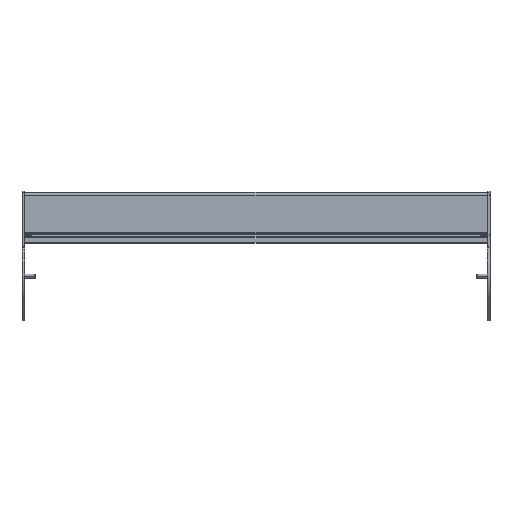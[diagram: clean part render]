
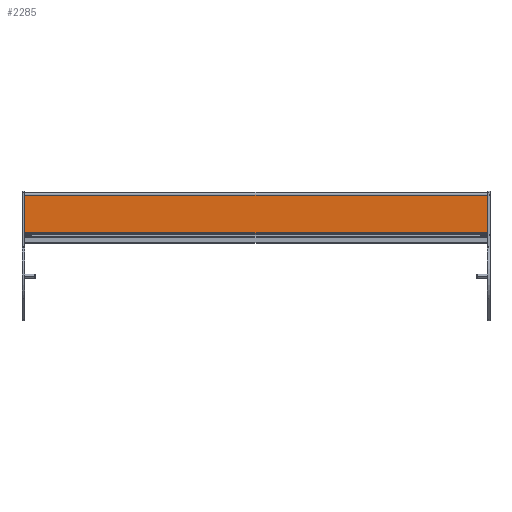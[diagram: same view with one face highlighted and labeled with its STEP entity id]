
A CAD part, top view. The second image highlights one B-rep face of the part: STEP entity #2285.
In plain terms, the highlighted planar face has unit normal (0, 0, 1) as drawn and (1, 0, 0) by its records, which use the part's own axes.
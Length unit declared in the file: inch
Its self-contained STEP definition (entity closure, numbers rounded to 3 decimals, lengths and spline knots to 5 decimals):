
#197=DIRECTION('',(0.,1.,0.));
#198=VECTOR('',#197,1.81445);
#199=CARTESIAN_POINT('',(0.683,-0.84545,-11.118));
#200=LINE('',#199,#198);
#303=DIRECTION('',(0.,1.,0.));
#304=VECTOR('',#303,1.81445);
#305=CARTESIAN_POINT('',(0.683,-0.84545,11.118));
#306=LINE('',#305,#304);
#646=DIRECTION('',(0.,0.,1.));
#647=VECTOR('',#646,22.236);
#648=CARTESIAN_POINT('',(0.683,0.969,-11.118));
#649=LINE('',#648,#647);
#659=DIRECTION('',(0.,0.,-1.));
#660=VECTOR('',#659,22.236);
#661=CARTESIAN_POINT('',(0.683,-0.84545,11.118));
#662=LINE('',#661,#660);
#1270=CARTESIAN_POINT('',(0.683,-0.84545,-11.118));
#1271=CARTESIAN_POINT('',(0.683,0.969,-11.118));
#1272=VERTEX_POINT('',#1270);
#1273=VERTEX_POINT('',#1271);
#1274=CARTESIAN_POINT('',(0.683,-0.84545,11.118));
#1275=CARTESIAN_POINT('',(0.683,0.969,11.118));
#1276=VERTEX_POINT('',#1274);
#1277=VERTEX_POINT('',#1275);
#2273=CARTESIAN_POINT('',(0.683,-0.86334,-11.118));
#2274=DIRECTION('',(1.,0.,0.));
#2275=DIRECTION('',(0.,1.,0.));
#2276=AXIS2_PLACEMENT_3D('',#2273,#2274,#2275);
#2277=PLANE('',#2276);
#2278=ORIENTED_EDGE('',*,*,#1631,.F.);
#2280=ORIENTED_EDGE('',*,*,#2279,.F.);
#2281=ORIENTED_EDGE('',*,*,#1734,.T.);
#2282=ORIENTED_EDGE('',*,*,#2266,.F.);
#2283=EDGE_LOOP('',(#2278,#2280,#2281,#2282));
#2284=FACE_OUTER_BOUND('',#2283,.F.);
#1631=EDGE_CURVE('',#1272,#1273,#200,.T.);
#1734=EDGE_CURVE('',#1276,#1277,#306,.T.);
#2266=EDGE_CURVE('',#1273,#1277,#649,.T.);
#2279=EDGE_CURVE('',#1276,#1272,#662,.T.);
#2285=ADVANCED_FACE('',(#2284),#2277,.T.);
